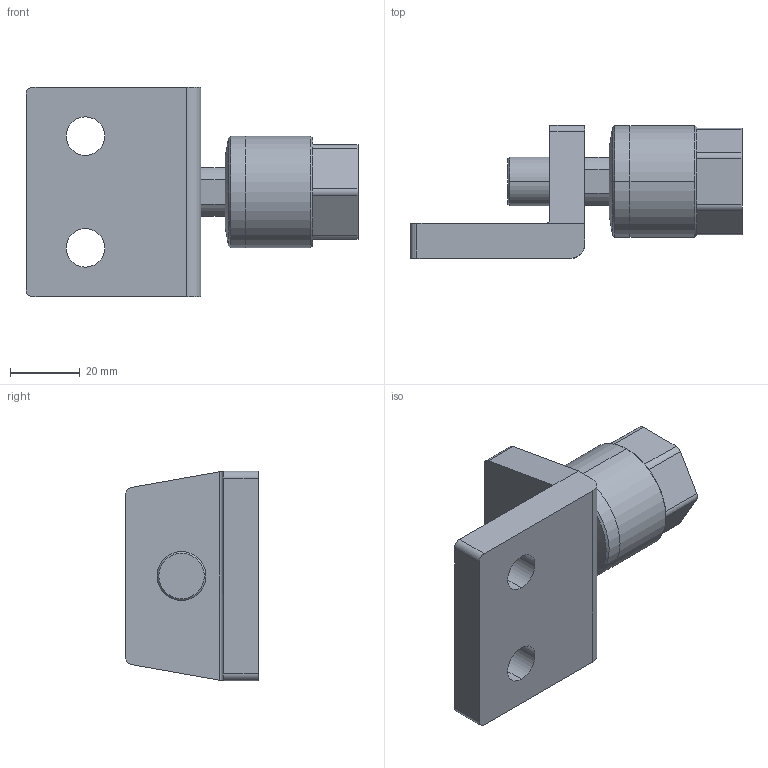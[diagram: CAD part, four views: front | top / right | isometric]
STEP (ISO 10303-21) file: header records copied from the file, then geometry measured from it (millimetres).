
FILE_DESCRIPTION (( 'STEP AP203' ), '1' );
FILE_NAME ('FCM14A-1.5-L.STEP', '2016-04-14T01:58:36', ( '' ), ( '' ), 'SwSTEP 2.0', 'SolidWorks 2014', '' );
FILE_SCHEMA (( 'CONFIG_CONTROL_DESIGN' ));
Length unit declared in the file: millimetre
Products named in the file (3): FCM14A-1.5-L; FCM14A-L; FCM14A-1.5
Assembly tree (2 placements, depth 2):
  FCM14A-1.5-L
    FCM14A-1.5
    FCM14A-L
Bounding box: 95 x 38 x 60 mm (x, y, z)
Volume: 71998.8 mm3; surface area: 19210.9 mm2
Topology: 2 solids, 2 shells, 68 faces, 166 edges, 103 vertices
Faces by surface type: cylinder 30, plane 28, cone 10
Entity records: 2299 total; most frequent: DIRECTION 374, CARTESIAN_POINT 346, ORIENTED_EDGE 328, EDGE_CURVE 164, AXIS2_PLACEMENT_3D 139, VERTEX_POINT 103, VECTOR 96, LINE 96
